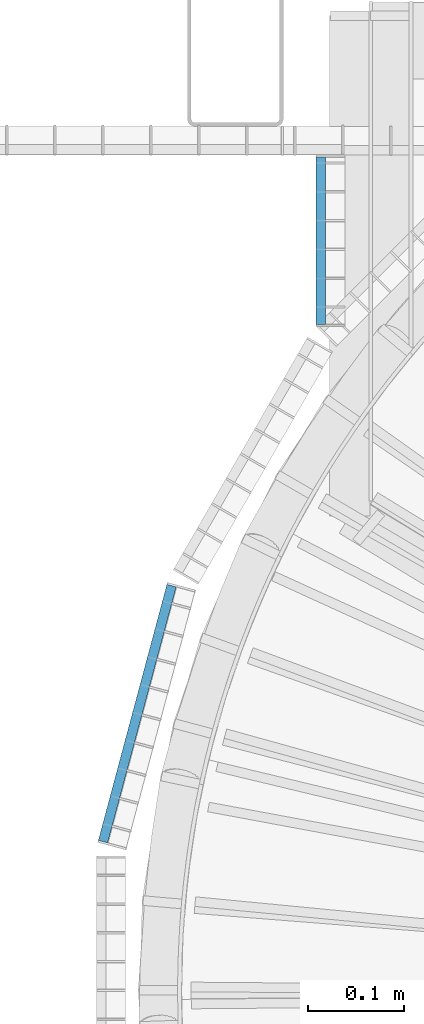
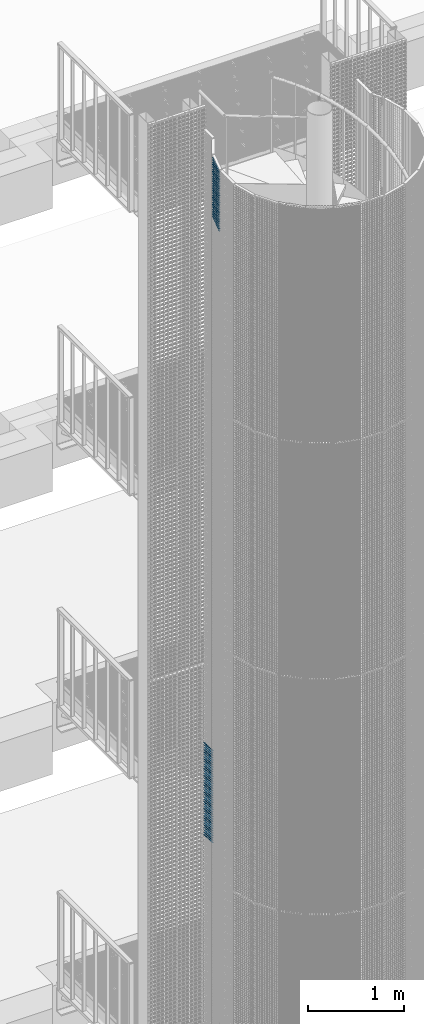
# One storey, part 183 of 1183: 66 beams, 2 elements without a shape of their own.
"""IFC2X3 building model written with IfcOpenShell, lengths in millimetres."""

from ifc_helpers import new_model, si_unit, frame, origin_with_axes, origin_2d_with_axis, place, context, subcontext, project, spatial, rectangle, extrude, material, type_object, element, aggregate, save


model = new_model("IFC2X3")

# Units and contexts
model_context = context("Model", 3, precision=1e-05, world=origin_with_axes())
body_context = subcontext(model_context, "Body", "Model", "MODEL_VIEW")
ifc_project = project(units=[si_unit("LENGTHUNIT", "METRE", prefix="MILLI"), si_unit("AREAUNIT", "SQUARE_METRE"), si_unit("VOLUMEUNIT", "CUBIC_METRE"), si_unit("MASSUNIT", "GRAM", prefix="KILO"), si_unit("TIMEUNIT", "SECOND"), si_unit("PLANEANGLEUNIT", "RADIAN"), si_unit("SOLIDANGLEUNIT", "STERADIAN"), si_unit("THERMODYNAMICTEMPERATUREUNIT", "DEGREE_CELSIUS"), si_unit("LUMINOUSINTENSITYUNIT", "LUMEN")], contexts=[model_context])

# Site, building, storey
site_placement = place(None, origin_with_axes())
site = spatial("IfcSite", under=ifc_project, at=site_placement, Name="Undefined", CompositionType="ELEMENT")
building_placement = place(site_placement, origin_with_axes())
building = spatial("IfcBuilding", under=site, at=building_placement, Name="Undefined", CompositionType="ELEMENT")
storey_placement = place(building_placement, origin_with_axes())
storey = spatial("IfcBuildingStorey", under=building, at=storey_placement, Name="Undefined", CompositionType="ELEMENT", Elevation=0.0)

# Assembly, beams
assembly_1_placement = place(storey_placement, origin_with_axes())
assembly_1 = element("IfcElementAssembly", 1, at=assembly_1_placement, inside=storey, Name="BORDURE", AssemblyPlace="NOTDEFINED", PredefinedType="NOTDEFINED")
ifc_material = material(Name="STEEL/S235JR")
beam_type = type_object("IfcBeamType", Name="PL2*10", PredefinedType="NOTDEFINED")
beam_1_placement = place(assembly_1_placement, frame((-884.882567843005, 867.99701719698, 10200.0), z_axis=(-1.0, 0.0, 0.0), x_axis=(0.0, -1.0, 0.0)))
beam_1 = element("IfcBeam", 2, at=beam_1_placement, type_object=beam_type, material=ifc_material, Name="ENTRETOISE", context=body_context, shape_type="SweptSolid", body=[
    extrude(rectangle(XDim=2.0, YDim=10.0, at=origin_2d_with_axis()), frame((174.109999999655, 0.0, 0.0), z_axis=(-1.0, 0.0, 0.0), x_axis=(0.0, -1.0, 0.0)), (0.0, 0.0, 1.0), 174.11),
])
beam_2_placement = place(assembly_1_placement, frame((-884.882567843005, 867.99701719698, 10170.0), z_axis=(-1.0, 0.0, 0.0), x_axis=(0.0, -1.0, 0.0)))
beam_2 = element("IfcBeam", 3, at=beam_2_placement, type_object=beam_type, material=ifc_material, Name="ENTRETOISE", context=body_context, shape_type="SweptSolid", body=[
    extrude(rectangle(XDim=2.0, YDim=10.0, at=origin_2d_with_axis()), frame((174.109999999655, 0.0, 0.0), z_axis=(-1.0, 0.0, 0.0), x_axis=(0.0, -1.0, 0.0)), (0.0, 0.0, 1.0), 174.11),
])
beam_3_placement = place(assembly_1_placement, frame((-884.882567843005, 867.99701719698, 10140.0), z_axis=(-1.0, 0.0, 0.0), x_axis=(0.0, -1.0, 0.0)))
beam_3 = element("IfcBeam", 4, at=beam_3_placement, type_object=beam_type, material=ifc_material, Name="ENTRETOISE", context=body_context, shape_type="SweptSolid", body=[
    extrude(rectangle(XDim=2.0, YDim=10.0, at=origin_2d_with_axis()), frame((174.109999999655, 0.0, 0.0), z_axis=(-1.0, 0.0, 0.0), x_axis=(0.0, -1.0, 0.0)), (0.0, 0.0, 1.0), 174.11),
])
beam_4_placement = place(assembly_1_placement, frame((-884.882567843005, 867.997017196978, 9720.0), z_axis=(-1.0, 0.0, 0.0), x_axis=(0.0, -1.0, 0.0)))
beam_4 = element("IfcBeam", 5, at=beam_4_placement, type_object=beam_type, material=ifc_material, Name="ENTRETOISE", context=body_context, shape_type="SweptSolid", body=[
    extrude(rectangle(XDim=2.0, YDim=10.0, at=origin_2d_with_axis()), frame((174.109999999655, 0.0, 0.0), z_axis=(-1.0, 0.0, 0.0), x_axis=(0.0, -1.0, 0.0)), (0.0, 0.0, 1.0), 174.11),
])
beam_5_placement = place(assembly_1_placement, frame((-884.882567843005, 867.997017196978, 9690.0), z_axis=(-1.0, 0.0, 0.0), x_axis=(0.0, -1.0, 0.0)))
beam_5 = element("IfcBeam", 6, at=beam_5_placement, type_object=beam_type, material=ifc_material, Name="ENTRETOISE", context=body_context, shape_type="SweptSolid", body=[
    extrude(rectangle(XDim=2.0, YDim=10.0, at=origin_2d_with_axis()), frame((174.109999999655, 0.0, 0.0), z_axis=(-1.0, 0.0, 0.0), x_axis=(0.0, -1.0, 0.0)), (0.0, 0.0, 1.0), 174.11),
])
beam_6_placement = place(assembly_1_placement, frame((-884.882567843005, 867.997017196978, 9750.0), z_axis=(-1.0, 0.0, 0.0), x_axis=(0.0, -1.0, 0.0)))
beam_6 = element("IfcBeam", 7, at=beam_6_placement, type_object=beam_type, material=ifc_material, Name="ENTRETOISE", context=body_context, shape_type="SweptSolid", body=[
    extrude(rectangle(XDim=2.0, YDim=10.0, at=origin_2d_with_axis()), frame((174.109999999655, 0.0, 0.0), z_axis=(-1.0, 0.0, 0.0), x_axis=(0.0, -1.0, 0.0)), (0.0, 0.0, 1.0), 174.11),
])
beam_7_placement = place(assembly_1_placement, frame((-884.882567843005, 867.997017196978, 9660.0), z_axis=(-1.0, 0.0, 0.0), x_axis=(0.0, -1.0, 0.0)))
beam_7 = element("IfcBeam", 8, at=beam_7_placement, type_object=beam_type, material=ifc_material, Name="ENTRETOISE", context=body_context, shape_type="SweptSolid", body=[
    extrude(rectangle(XDim=2.0, YDim=10.0, at=origin_2d_with_axis()), frame((174.109999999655, 0.0, 0.0), z_axis=(-1.0, 0.0, 0.0), x_axis=(0.0, -1.0, 0.0)), (0.0, 0.0, 1.0), 174.11),
])
beam_8_placement = place(assembly_1_placement, frame((-884.882567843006, 867.997017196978, 9630.0), z_axis=(-1.0, 0.0, 0.0), x_axis=(0.0, -1.0, 0.0)))
beam_8 = element("IfcBeam", 9, at=beam_8_placement, type_object=beam_type, material=ifc_material, Name="ENTRETOISE", context=body_context, shape_type="SweptSolid", body=[
    extrude(rectangle(XDim=2.0, YDim=10.0, at=origin_2d_with_axis()), frame((174.109999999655, 0.0, 0.0), z_axis=(-1.0, 0.0, 0.0), x_axis=(0.0, -1.0, 0.0)), (0.0, 0.0, 1.0), 174.11),
])
beam_9_placement = place(assembly_1_placement, frame((-884.882567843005, 867.997017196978, 9780.0), z_axis=(-1.0, 0.0, 0.0), x_axis=(0.0, -1.0, 0.0)))
beam_9 = element("IfcBeam", 10, at=beam_9_placement, type_object=beam_type, material=ifc_material, Name="ENTRETOISE", context=body_context, shape_type="SweptSolid", body=[
    extrude(rectangle(XDim=2.0, YDim=10.0, at=origin_2d_with_axis()), frame((174.109999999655, 0.0, 0.0), z_axis=(-1.0, 0.0, 0.0), x_axis=(0.0, -1.0, 0.0)), (0.0, 0.0, 1.0), 174.11),
])
beam_10_placement = place(assembly_1_placement, frame((-884.882567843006, 867.997017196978, 9600.0), z_axis=(-1.0, 0.0, 0.0), x_axis=(0.0, -1.0, 0.0)))
beam_10 = element("IfcBeam", 11, at=beam_10_placement, type_object=beam_type, material=ifc_material, Name="ENTRETOISE", context=body_context, shape_type="SweptSolid", body=[
    extrude(rectangle(XDim=2.0, YDim=10.0, at=origin_2d_with_axis()), frame((174.109999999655, 0.0, 0.0), z_axis=(-1.0, 0.0, 0.0), x_axis=(0.0, -1.0, 0.0)), (0.0, 0.0, 1.0), 174.11),
])
beam_11_placement = place(assembly_1_placement, frame((-884.882567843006, 867.997017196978, 9810.0), z_axis=(-1.0, 0.0, 0.0), x_axis=(0.0, -1.0, 0.0)))
beam_11 = element("IfcBeam", 12, at=beam_11_placement, type_object=beam_type, material=ifc_material, Name="ENTRETOISE", context=body_context, shape_type="SweptSolid", body=[
    extrude(rectangle(XDim=2.0, YDim=10.0, at=origin_2d_with_axis()), frame((174.109999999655, 0.0, 0.0), z_axis=(-1.0, 0.0, 0.0), x_axis=(0.0, -1.0, 0.0)), (0.0, 0.0, 1.0), 174.11),
])
beam_12_placement = place(assembly_1_placement, frame((-884.882567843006, 867.997017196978, 9570.0), z_axis=(-1.0, 0.0, 0.0), x_axis=(0.0, -1.0, 0.0)))
beam_12 = element("IfcBeam", 13, at=beam_12_placement, type_object=beam_type, material=ifc_material, Name="ENTRETOISE", context=body_context, shape_type="SweptSolid", body=[
    extrude(rectangle(XDim=2.0, YDim=10.0, at=origin_2d_with_axis()), frame((174.109999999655, 0.0, 0.0), z_axis=(-1.0, 0.0, 0.0), x_axis=(0.0, -1.0, 0.0)), (0.0, 0.0, 1.0), 174.11),
])
beam_13_placement = place(assembly_1_placement, frame((-884.882567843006, 867.997017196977, 9540.0), z_axis=(-1.0, 0.0, 0.0), x_axis=(0.0, -1.0, 0.0)))
beam_13 = element("IfcBeam", 14, at=beam_13_placement, type_object=beam_type, material=ifc_material, Name="ENTRETOISE", context=body_context, shape_type="SweptSolid", body=[
    extrude(rectangle(XDim=2.0, YDim=10.0, at=origin_2d_with_axis()), frame((174.109999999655, 0.0, 0.0), z_axis=(-1.0, 0.0, 0.0), x_axis=(0.0, -1.0, 0.0)), (0.0, 0.0, 1.0), 174.11),
])
beam_14_placement = place(assembly_1_placement, frame((-884.882567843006, 867.997017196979, 9840.0), z_axis=(-1.0, 0.0, 0.0), x_axis=(0.0, -1.0, 0.0)))
beam_14 = element("IfcBeam", 15, at=beam_14_placement, type_object=beam_type, material=ifc_material, Name="ENTRETOISE", context=body_context, shape_type="SweptSolid", body=[
    extrude(rectangle(XDim=2.0, YDim=10.0, at=origin_2d_with_axis()), frame((174.109999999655, 0.0, 0.0), z_axis=(-1.0, 0.0, 0.0), x_axis=(0.0, -1.0, 0.0)), (0.0, 0.0, 1.0), 174.11),
])
beam_15_placement = place(assembly_1_placement, frame((-884.882567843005, 867.997017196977, 9510.0), z_axis=(-1.0, 0.0, 0.0), x_axis=(0.0, -1.0, 0.0)))
beam_15 = element("IfcBeam", 16, at=beam_15_placement, type_object=beam_type, material=ifc_material, Name="ENTRETOISE", context=body_context, shape_type="SweptSolid", body=[
    extrude(rectangle(XDim=2.0, YDim=10.0, at=origin_2d_with_axis()), frame((174.109999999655, 0.0, 0.0), z_axis=(-1.0, 0.0, 0.0), x_axis=(0.0, -1.0, 0.0)), (0.0, 0.0, 1.0), 174.11),
])
beam_16_placement = place(assembly_1_placement, frame((-884.882567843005, 867.997017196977, 9480.0), z_axis=(-1.0, 0.0, 0.0), x_axis=(0.0, -1.0, 0.0)))
beam_16 = element("IfcBeam", 17, at=beam_16_placement, type_object=beam_type, material=ifc_material, Name="ENTRETOISE", context=body_context, shape_type="SweptSolid", body=[
    extrude(rectangle(XDim=2.0, YDim=10.0, at=origin_2d_with_axis()), frame((174.109999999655, 0.0, 0.0), z_axis=(-1.0, 0.0, 0.0), x_axis=(0.0, -1.0, 0.0)), (0.0, 0.0, 1.0), 174.11),
])
beam_17_placement = place(assembly_1_placement, frame((-884.882567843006, 867.997017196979, 9870.0), z_axis=(-1.0, 0.0, 0.0), x_axis=(0.0, -1.0, 0.0)))
beam_17 = element("IfcBeam", 18, at=beam_17_placement, type_object=beam_type, material=ifc_material, Name="ENTRETOISE", context=body_context, shape_type="SweptSolid", body=[
    extrude(rectangle(XDim=2.0, YDim=10.0, at=origin_2d_with_axis()), frame((174.109999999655, 0.0, 0.0), z_axis=(-1.0, 0.0, 0.0), x_axis=(0.0, -1.0, 0.0)), (0.0, 0.0, 1.0), 174.11),
])
beam_18_placement = place(assembly_1_placement, frame((-884.882567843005, 867.997017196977, 9450.0), z_axis=(-1.0, 0.0, 0.0), x_axis=(0.0, -1.0, 0.0)))
beam_18 = element("IfcBeam", 19, at=beam_18_placement, type_object=beam_type, material=ifc_material, Name="ENTRETOISE", context=body_context, shape_type="SweptSolid", body=[
    extrude(rectangle(XDim=2.0, YDim=10.0, at=origin_2d_with_axis()), frame((174.109999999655, 0.0, 0.0), z_axis=(-1.0, 0.0, 0.0), x_axis=(0.0, -1.0, 0.0)), (0.0, 0.0, 1.0), 174.11),
])
beam_19_placement = place(assembly_1_placement, frame((-884.882567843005, 867.997017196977, 9420.0), z_axis=(-1.0, 0.0, 0.0), x_axis=(0.0, -1.0, 0.0)))
beam_19 = element("IfcBeam", 20, at=beam_19_placement, type_object=beam_type, material=ifc_material, Name="ENTRETOISE", context=body_context, shape_type="SweptSolid", body=[
    extrude(rectangle(XDim=2.0, YDim=10.0, at=origin_2d_with_axis()), frame((174.109999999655, 0.0, 0.0), z_axis=(-1.0, 0.0, 0.0), x_axis=(0.0, -1.0, 0.0)), (0.0, 0.0, 1.0), 174.11),
])
beam_20_placement = place(assembly_1_placement, frame((-884.882567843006, 867.997017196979, 9900.0), z_axis=(-1.0, 0.0, 0.0), x_axis=(0.0, -1.0, 0.0)))
beam_20 = element("IfcBeam", 21, at=beam_20_placement, type_object=beam_type, material=ifc_material, Name="ENTRETOISE", context=body_context, shape_type="SweptSolid", body=[
    extrude(rectangle(XDim=2.0, YDim=10.0, at=origin_2d_with_axis()), frame((174.109999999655, 0.0, 0.0), z_axis=(-1.0, 0.0, 0.0), x_axis=(0.0, -1.0, 0.0)), (0.0, 0.0, 1.0), 174.11),
])
beam_21_placement = place(assembly_1_placement, frame((-884.882567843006, 867.997017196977, 9390.0), z_axis=(-1.0, 0.0, 0.0), x_axis=(0.0, -1.0, 0.0)))
beam_21 = element("IfcBeam", 22, at=beam_21_placement, type_object=beam_type, material=ifc_material, Name="ENTRETOISE", context=body_context, shape_type="SweptSolid", body=[
    extrude(rectangle(XDim=2.0, YDim=10.0, at=origin_2d_with_axis()), frame((174.109999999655, 0.0, 0.0), z_axis=(-1.0, 0.0, 0.0), x_axis=(0.0, -1.0, 0.0)), (0.0, 0.0, 1.0), 174.11),
])
beam_22_placement = place(assembly_1_placement, frame((-884.882567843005, 867.997017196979, 9930.0), z_axis=(-1.0, 0.0, 0.0), x_axis=(0.0, -1.0, 0.0)))
beam_22 = element("IfcBeam", 23, at=beam_22_placement, type_object=beam_type, material=ifc_material, Name="ENTRETOISE", context=body_context, shape_type="SweptSolid", body=[
    extrude(rectangle(XDim=2.0, YDim=10.0, at=origin_2d_with_axis()), frame((174.109999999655, 0.0, 0.0), z_axis=(-1.0, 0.0, 0.0), x_axis=(0.0, -1.0, 0.0)), (0.0, 0.0, 1.0), 174.11),
])
beam_23_placement = place(assembly_1_placement, frame((-884.882567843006, 867.997017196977, 9360.0), z_axis=(-1.0, 0.0, 0.0), x_axis=(0.0, -1.0, 0.0)))
beam_23 = element("IfcBeam", 24, at=beam_23_placement, type_object=beam_type, material=ifc_material, Name="ENTRETOISE", context=body_context, shape_type="SweptSolid", body=[
    extrude(rectangle(XDim=2.0, YDim=10.0, at=origin_2d_with_axis()), frame((174.109999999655, 0.0, 0.0), z_axis=(-1.0, 0.0, 0.0), x_axis=(0.0, -1.0, 0.0)), (0.0, 0.0, 1.0), 174.11),
])
beam_24_placement = place(assembly_1_placement, frame((-884.882567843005, 867.997017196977, 9330.0), z_axis=(-1.0, 0.0, 0.0), x_axis=(0.0, -1.0, 0.0)))
beam_24 = element("IfcBeam", 25, at=beam_24_placement, type_object=beam_type, material=ifc_material, Name="ENTRETOISE", context=body_context, shape_type="SweptSolid", body=[
    extrude(rectangle(XDim=2.0, YDim=10.0, at=origin_2d_with_axis()), frame((174.109999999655, 0.0, 0.0), z_axis=(-1.0, 0.0, 0.0), x_axis=(0.0, -1.0, 0.0)), (0.0, 0.0, 1.0), 174.11),
])
beam_25_placement = place(assembly_1_placement, frame((-884.882567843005, 867.997017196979, 9960.0), z_axis=(-1.0, 0.0, 0.0), x_axis=(0.0, -1.0, 0.0)))
beam_25 = element("IfcBeam", 26, at=beam_25_placement, type_object=beam_type, material=ifc_material, Name="ENTRETOISE", context=body_context, shape_type="SweptSolid", body=[
    extrude(rectangle(XDim=2.0, YDim=10.0, at=origin_2d_with_axis()), frame((174.109999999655, 0.0, 0.0), z_axis=(-1.0, 0.0, 0.0), x_axis=(0.0, -1.0, 0.0)), (0.0, 0.0, 1.0), 174.11),
])
beam_26_placement = place(assembly_1_placement, frame((-884.882567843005, 867.997017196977, 9300.0), z_axis=(-1.0, 0.0, 0.0), x_axis=(0.0, -1.0, 0.0)))
beam_26 = element("IfcBeam", 27, at=beam_26_placement, type_object=beam_type, material=ifc_material, Name="ENTRETOISE", context=body_context, shape_type="SweptSolid", body=[
    extrude(rectangle(XDim=2.0, YDim=10.0, at=origin_2d_with_axis()), frame((174.109999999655, 0.0, 0.0), z_axis=(-1.0, 0.0, 0.0), x_axis=(0.0, -1.0, 0.0)), (0.0, 0.0, 1.0), 174.11),
])
beam_27_placement = place(assembly_1_placement, frame((-884.882567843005, 867.997017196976, 9270.0), z_axis=(-1.0, 0.0, 0.0), x_axis=(0.0, -1.0, 0.0)))
beam_27 = element("IfcBeam", 28, at=beam_27_placement, type_object=beam_type, material=ifc_material, Name="ENTRETOISE", context=body_context, shape_type="SweptSolid", body=[
    extrude(rectangle(XDim=2.0, YDim=10.0, at=origin_2d_with_axis()), frame((174.109999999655, 0.0, 0.0), z_axis=(-1.0, 0.0, 0.0), x_axis=(0.0, -1.0, 0.0)), (0.0, 0.0, 1.0), 174.11),
])
beam_28_placement = place(assembly_1_placement, frame((-884.882567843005, 867.997017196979, 9990.0), z_axis=(-1.0, 0.0, 0.0), x_axis=(0.0, -1.0, 0.0)))
beam_28 = element("IfcBeam", 29, at=beam_28_placement, type_object=beam_type, material=ifc_material, Name="ENTRETOISE", context=body_context, shape_type="SweptSolid", body=[
    extrude(rectangle(XDim=2.0, YDim=10.0, at=origin_2d_with_axis()), frame((174.109999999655, 0.0, 0.0), z_axis=(-1.0, 0.0, 0.0), x_axis=(0.0, -1.0, 0.0)), (0.0, 0.0, 1.0), 174.11),
])
beam_29_placement = place(assembly_1_placement, frame((-884.882567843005, 867.997017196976, 9240.0), z_axis=(-1.0, 0.0, 0.0), x_axis=(0.0, -1.0, 0.0)))
beam_29 = element("IfcBeam", 30, at=beam_29_placement, type_object=beam_type, material=ifc_material, Name="ENTRETOISE", context=body_context, shape_type="SweptSolid", body=[
    extrude(rectangle(XDim=2.0, YDim=10.0, at=origin_2d_with_axis()), frame((174.109999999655, 0.0, 0.0), z_axis=(-1.0, 0.0, 0.0), x_axis=(0.0, -1.0, 0.0)), (0.0, 0.0, 1.0), 174.11),
])
beam_30_placement = place(assembly_1_placement, frame((-884.882567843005, 867.997017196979, 10020.0), z_axis=(-1.0, 0.0, 0.0), x_axis=(0.0, -1.0, 0.0)))
beam_30 = element("IfcBeam", 31, at=beam_30_placement, type_object=beam_type, material=ifc_material, Name="ENTRETOISE", context=body_context, shape_type="SweptSolid", body=[
    extrude(rectangle(XDim=2.0, YDim=10.0, at=origin_2d_with_axis()), frame((174.109999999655, 0.0, 0.0), z_axis=(-1.0, 0.0, 0.0), x_axis=(0.0, -1.0, 0.0)), (0.0, 0.0, 1.0), 174.11),
])
beam_31_placement = place(assembly_1_placement, frame((-884.882567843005, 867.997017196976, 9210.0), z_axis=(-1.0, 0.0, 0.0), x_axis=(0.0, -1.0, 0.0)))
beam_31 = element("IfcBeam", 32, at=beam_31_placement, type_object=beam_type, material=ifc_material, Name="ENTRETOISE", context=body_context, shape_type="SweptSolid", body=[
    extrude(rectangle(XDim=2.0, YDim=10.0, at=origin_2d_with_axis()), frame((174.109999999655, 0.0, 0.0), z_axis=(-1.0, 0.0, 0.0), x_axis=(0.0, -1.0, 0.0)), (0.0, 0.0, 1.0), 174.11),
])
beam_32_placement = place(assembly_1_placement, frame((-884.882567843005, 867.997017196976, 9180.0), z_axis=(-1.0, 0.0, 0.0), x_axis=(0.0, -1.0, 0.0)))
beam_32 = element("IfcBeam", 33, at=beam_32_placement, type_object=beam_type, material=ifc_material, Name="ENTRETOISE", context=body_context, shape_type="SweptSolid", body=[
    extrude(rectangle(XDim=2.0, YDim=10.0, at=origin_2d_with_axis()), frame((174.109999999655, 0.0, 0.0), z_axis=(-1.0, 0.0, 0.0), x_axis=(0.0, -1.0, 0.0)), (0.0, 0.0, 1.0), 174.11),
])
beam_33_placement = place(assembly_1_placement, frame((-884.882567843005, 867.997017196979, 10050.0), z_axis=(-1.0, 0.0, 0.0), x_axis=(0.0, -1.0, 0.0)))
beam_33 = element("IfcBeam", 34, at=beam_33_placement, type_object=beam_type, material=ifc_material, Name="ENTRETOISE", context=body_context, shape_type="SweptSolid", body=[
    extrude(rectangle(XDim=2.0, YDim=10.0, at=origin_2d_with_axis()), frame((174.109999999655, 0.0, 0.0), z_axis=(-1.0, 0.0, 0.0), x_axis=(0.0, -1.0, 0.0)), (0.0, 0.0, 1.0), 174.11),
])
beam_34_placement = place(assembly_1_placement, frame((-884.882567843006, 867.997017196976, 9150.0), z_axis=(-1.0, 0.0, 0.0), x_axis=(0.0, -1.0, 0.0)))
beam_34 = element("IfcBeam", 35, at=beam_34_placement, type_object=beam_type, material=ifc_material, Name="ENTRETOISE", context=body_context, shape_type="SweptSolid", body=[
    extrude(rectangle(XDim=2.0, YDim=10.0, at=origin_2d_with_axis()), frame((174.109999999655, 0.0, 0.0), z_axis=(-1.0, 0.0, 0.0), x_axis=(0.0, -1.0, 0.0)), (0.0, 0.0, 1.0), 174.11),
])
beam_35_placement = place(assembly_1_placement, frame((-884.882567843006, 867.997017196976, 9120.0), z_axis=(-1.0, 0.0, 0.0), x_axis=(0.0, -1.0, 0.0)))
beam_35 = element("IfcBeam", 36, at=beam_35_placement, type_object=beam_type, material=ifc_material, Name="ENTRETOISE", context=body_context, shape_type="SweptSolid", body=[
    extrude(rectangle(XDim=2.0, YDim=10.0, at=origin_2d_with_axis()), frame((174.109999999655, 0.0, 0.0), z_axis=(-1.0, 0.0, 0.0), x_axis=(0.0, -1.0, 0.0)), (0.0, 0.0, 1.0), 174.11),
])
beam_36_placement = place(assembly_1_placement, frame((-884.882567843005, 867.997017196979, 10080.0), z_axis=(-1.0, 0.0, 0.0), x_axis=(0.0, -1.0, 0.0)))
beam_36 = element("IfcBeam", 37, at=beam_36_placement, type_object=beam_type, material=ifc_material, Name="ENTRETOISE", context=body_context, shape_type="SweptSolid", body=[
    extrude(rectangle(XDim=2.0, YDim=10.0, at=origin_2d_with_axis()), frame((174.109999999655, 0.0, 0.0), z_axis=(-1.0, 0.0, 0.0), x_axis=(0.0, -1.0, 0.0)), (0.0, 0.0, 1.0), 174.11),
])
beam_37_placement = place(assembly_1_placement, frame((-884.882567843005, 867.997017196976, 9090.0), z_axis=(-1.0, 0.0, 0.0), x_axis=(0.0, -1.0, 0.0)))
beam_37 = element("IfcBeam", 38, at=beam_37_placement, type_object=beam_type, material=ifc_material, Name="ENTRETOISE", context=body_context, shape_type="SweptSolid", body=[
    extrude(rectangle(XDim=2.0, YDim=10.0, at=origin_2d_with_axis()), frame((174.109999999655, 0.0, 0.0), z_axis=(-1.0, 0.0, 0.0), x_axis=(0.0, -1.0, 0.0)), (0.0, 0.0, 1.0), 174.11),
])
beam_38_placement = place(assembly_1_placement, frame((-884.882567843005, 867.997017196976, 9060.0), z_axis=(-1.0, 0.0, 0.0), x_axis=(0.0, -1.0, 0.0)))
beam_38 = element("IfcBeam", 39, at=beam_38_placement, type_object=beam_type, material=ifc_material, Name="ENTRETOISE", context=body_context, shape_type="SweptSolid", body=[
    extrude(rectangle(XDim=2.0, YDim=10.0, at=origin_2d_with_axis()), frame((174.109999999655, 0.0, 0.0), z_axis=(-1.0, 0.0, 0.0), x_axis=(0.0, -1.0, 0.0)), (0.0, 0.0, 1.0), 174.11),
])
beam_39_placement = place(assembly_1_placement, frame((-884.882567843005, 867.99701719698, 10110.0), z_axis=(-1.0, 0.0, 0.0), x_axis=(0.0, -1.0, 0.0)))
beam_39 = element("IfcBeam", 40, at=beam_39_placement, type_object=beam_type, material=ifc_material, Name="ENTRETOISE", context=body_context, shape_type="SweptSolid", body=[
    extrude(rectangle(XDim=2.0, YDim=10.0, at=origin_2d_with_axis()), frame((174.109999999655, 0.0, 0.0), z_axis=(-1.0, 0.0, 0.0), x_axis=(0.0, -1.0, 0.0)), (0.0, 0.0, 1.0), 174.11),
])
beam_40_placement = place(assembly_1_placement, frame((-884.882567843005, 867.997017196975, 9030.0), z_axis=(-1.0, 0.0, 0.0), x_axis=(0.0, -1.0, 0.0)))
beam_40 = element("IfcBeam", 41, at=beam_40_placement, type_object=beam_type, material=ifc_material, Name="ENTRETOISE", context=body_context, shape_type="SweptSolid", body=[
    extrude(rectangle(XDim=2.0, YDim=10.0, at=origin_2d_with_axis()), frame((174.109999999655, 0.0, 0.0), z_axis=(-1.0, 0.0, 0.0), x_axis=(0.0, -1.0, 0.0)), (0.0, 0.0, 1.0), 174.11),
])
aggregate(assembly_1, [beam_1, beam_2, beam_3, beam_4, beam_5, beam_6, beam_7, beam_8, beam_9, beam_10, beam_11, beam_12, beam_13, beam_14, beam_15, beam_16, beam_17, beam_18, beam_19, beam_20, beam_21, beam_22, beam_23, beam_24, beam_25, beam_26, beam_27, beam_28, beam_29, beam_30, beam_31, beam_32, beam_33, beam_34, beam_35, beam_36, beam_37, beam_38, beam_39, beam_40])

assembly_2_placement = place(storey_placement, origin_with_axes())
assembly_2 = element("IfcElementAssembly", 42, at=assembly_2_placement, inside=storey, Name="BORDURE", AssemblyPlace="NOTDEFINED", PredefinedType="NOTDEFINED")
beam_41_placement = place(assembly_2_placement, frame((-1040.30888419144, 421.61803829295, 17970.0), z_axis=(-0.965925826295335, 0.258819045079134, 0.0), x_axis=(-0.258819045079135, -0.965925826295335, 0.0)))
beam_41 = element("IfcBeam", 43, at=beam_41_placement, type_object=beam_type, material=ifc_material, Name="ENTRETOISE", context=body_context, shape_type="SweptSolid", body=[
    extrude(rectangle(XDim=2.0, YDim=10.0, at=origin_2d_with_axis()), frame((275.999999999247, 9.09494701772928e-13, 1.53210777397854e-14), z_axis=(-1.0, 0.0, 0.0), x_axis=(0.0, -1.0, 0.0)), (0.0, 0.0, 1.0), 276.0),
])
beam_42_placement = place(assembly_2_placement, frame((-1040.30888419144, 421.61803829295, 17940.0), z_axis=(-0.965925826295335, 0.258819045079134, 0.0), x_axis=(-0.258819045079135, -0.965925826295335, 0.0)))
beam_42 = element("IfcBeam", 44, at=beam_42_placement, type_object=beam_type, material=ifc_material, Name="ENTRETOISE", context=body_context, shape_type="SweptSolid", body=[
    extrude(rectangle(XDim=2.0, YDim=10.0, at=origin_2d_with_axis()), frame((275.999999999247, 9.09494701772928e-13, 1.53210777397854e-14), z_axis=(-1.0, 0.0, 0.0), x_axis=(0.0, -1.0, 0.0)), (0.0, 0.0, 1.0), 276.0),
])
beam_43_placement = place(assembly_2_placement, frame((-1040.30888419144, 421.61803829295, 17910.0), z_axis=(-0.965925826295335, 0.258819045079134, 0.0), x_axis=(-0.258819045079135, -0.965925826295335, 0.0)))
beam_43 = element("IfcBeam", 45, at=beam_43_placement, type_object=beam_type, material=ifc_material, Name="ENTRETOISE", context=body_context, shape_type="SweptSolid", body=[
    extrude(rectangle(XDim=2.0, YDim=10.0, at=origin_2d_with_axis()), frame((275.999999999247, 9.09494701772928e-13, 1.53210777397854e-14), z_axis=(-1.0, 0.0, 0.0), x_axis=(0.0, -1.0, 0.0)), (0.0, 0.0, 1.0), 276.0),
])
beam_44_placement = place(assembly_2_placement, frame((-1040.30888419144, 421.61803829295, 17880.0), z_axis=(-0.965925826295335, 0.258819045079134, 0.0), x_axis=(-0.258819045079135, -0.965925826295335, 0.0)))
beam_44 = element("IfcBeam", 46, at=beam_44_placement, type_object=beam_type, material=ifc_material, Name="ENTRETOISE", context=body_context, shape_type="SweptSolid", body=[
    extrude(rectangle(XDim=2.0, YDim=10.0, at=origin_2d_with_axis()), frame((275.999999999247, 9.09494701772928e-13, 1.53210777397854e-14), z_axis=(-1.0, 0.0, 0.0), x_axis=(0.0, -1.0, 0.0)), (0.0, 0.0, 1.0), 276.0),
])
beam_45_placement = place(assembly_2_placement, frame((-1040.30888419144, 421.61803829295, 17850.0), z_axis=(-0.965925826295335, 0.258819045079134, 0.0), x_axis=(-0.258819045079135, -0.965925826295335, 0.0)))
beam_45 = element("IfcBeam", 47, at=beam_45_placement, type_object=beam_type, material=ifc_material, Name="ENTRETOISE", context=body_context, shape_type="SweptSolid", body=[
    extrude(rectangle(XDim=2.0, YDim=10.0, at=origin_2d_with_axis()), frame((275.999999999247, 9.09494701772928e-13, 1.53210777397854e-14), z_axis=(-1.0, 0.0, 0.0), x_axis=(0.0, -1.0, 0.0)), (0.0, 0.0, 1.0), 276.0),
])
beam_46_placement = place(assembly_2_placement, frame((-1040.30888419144, 421.61803829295, 17820.0), z_axis=(-0.965925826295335, 0.258819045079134, 0.0), x_axis=(-0.258819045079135, -0.965925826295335, 0.0)))
beam_46 = element("IfcBeam", 48, at=beam_46_placement, type_object=beam_type, material=ifc_material, Name="ENTRETOISE", context=body_context, shape_type="SweptSolid", body=[
    extrude(rectangle(XDim=2.0, YDim=10.0, at=origin_2d_with_axis()), frame((275.999999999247, 9.09494701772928e-13, 1.53210777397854e-14), z_axis=(-1.0, 0.0, 0.0), x_axis=(0.0, -1.0, 0.0)), (0.0, 0.0, 1.0), 276.0),
])
beam_47_placement = place(assembly_2_placement, frame((-1040.30888419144, 421.61803829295, 17790.0), z_axis=(-0.965925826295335, 0.258819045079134, 0.0), x_axis=(-0.258819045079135, -0.965925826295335, 0.0)))
beam_47 = element("IfcBeam", 49, at=beam_47_placement, type_object=beam_type, material=ifc_material, Name="ENTRETOISE", context=body_context, shape_type="SweptSolid", body=[
    extrude(rectangle(XDim=2.0, YDim=10.0, at=origin_2d_with_axis()), frame((275.999999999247, 9.09494701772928e-13, 1.53210777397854e-14), z_axis=(-1.0, 0.0, 0.0), x_axis=(0.0, -1.0, 0.0)), (0.0, 0.0, 1.0), 276.0),
])
beam_48_placement = place(assembly_2_placement, frame((-1040.30888419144, 421.61803829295, 17760.0), z_axis=(-0.965925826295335, 0.258819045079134, 0.0), x_axis=(-0.258819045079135, -0.965925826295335, 0.0)))
beam_48 = element("IfcBeam", 50, at=beam_48_placement, type_object=beam_type, material=ifc_material, Name="ENTRETOISE", context=body_context, shape_type="SweptSolid", body=[
    extrude(rectangle(XDim=2.0, YDim=10.0, at=origin_2d_with_axis()), frame((275.999999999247, 9.09494701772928e-13, 1.53210777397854e-14), z_axis=(-1.0, 0.0, 0.0), x_axis=(0.0, -1.0, 0.0)), (0.0, 0.0, 1.0), 276.0),
])
beam_49_placement = place(assembly_2_placement, frame((-1040.30888419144, 421.61803829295, 17730.0), z_axis=(-0.965925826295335, 0.258819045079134, 0.0), x_axis=(-0.258819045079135, -0.965925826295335, 0.0)))
beam_49 = element("IfcBeam", 51, at=beam_49_placement, type_object=beam_type, material=ifc_material, Name="ENTRETOISE", context=body_context, shape_type="SweptSolid", body=[
    extrude(rectangle(XDim=2.0, YDim=10.0, at=origin_2d_with_axis()), frame((275.999999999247, 9.09494701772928e-13, 1.53210777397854e-14), z_axis=(-1.0, 0.0, 0.0), x_axis=(0.0, -1.0, 0.0)), (0.0, 0.0, 1.0), 276.0),
])
beam_50_placement = place(assembly_2_placement, frame((-1040.30888419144, 421.618038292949, 17700.0), z_axis=(-0.965925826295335, 0.258819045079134, 0.0), x_axis=(-0.258819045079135, -0.965925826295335, 0.0)))
beam_50 = element("IfcBeam", 52, at=beam_50_placement, type_object=beam_type, material=ifc_material, Name="ENTRETOISE", context=body_context, shape_type="SweptSolid", body=[
    extrude(rectangle(XDim=2.0, YDim=10.0, at=origin_2d_with_axis()), frame((275.999999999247, 9.09494701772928e-13, 1.53210777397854e-14), z_axis=(-1.0, 0.0, 0.0), x_axis=(0.0, -1.0, 0.0)), (0.0, 0.0, 1.0), 276.0),
])
beam_51_placement = place(assembly_2_placement, frame((-1040.30888419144, 421.618038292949, 17670.0), z_axis=(-0.965925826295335, 0.258819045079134, 0.0), x_axis=(-0.258819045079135, -0.965925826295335, 0.0)))
beam_51 = element("IfcBeam", 53, at=beam_51_placement, type_object=beam_type, material=ifc_material, Name="ENTRETOISE", context=body_context, shape_type="SweptSolid", body=[
    extrude(rectangle(XDim=2.0, YDim=10.0, at=origin_2d_with_axis()), frame((275.999999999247, 9.09494701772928e-13, 1.53210777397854e-14), z_axis=(-1.0, 0.0, 0.0), x_axis=(0.0, -1.0, 0.0)), (0.0, 0.0, 1.0), 276.0),
])
beam_52_placement = place(assembly_2_placement, frame((-1040.30888419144, 421.618038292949, 17640.0), z_axis=(-0.965925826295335, 0.258819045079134, 0.0), x_axis=(-0.258819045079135, -0.965925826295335, 0.0)))
beam_52 = element("IfcBeam", 54, at=beam_52_placement, type_object=beam_type, material=ifc_material, Name="ENTRETOISE", context=body_context, shape_type="SweptSolid", body=[
    extrude(rectangle(XDim=2.0, YDim=10.0, at=origin_2d_with_axis()), frame((275.999999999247, 9.09494701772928e-13, 1.53210777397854e-14), z_axis=(-1.0, 0.0, 0.0), x_axis=(0.0, -1.0, 0.0)), (0.0, 0.0, 1.0), 276.0),
])
beam_53_placement = place(assembly_2_placement, frame((-1040.30888419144, 421.618038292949, 17610.0), z_axis=(-0.965925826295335, 0.258819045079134, 0.0), x_axis=(-0.258819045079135, -0.965925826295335, 0.0)))
beam_53 = element("IfcBeam", 55, at=beam_53_placement, type_object=beam_type, material=ifc_material, Name="ENTRETOISE", context=body_context, shape_type="SweptSolid", body=[
    extrude(rectangle(XDim=2.0, YDim=10.0, at=origin_2d_with_axis()), frame((275.999999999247, 9.09494701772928e-13, 1.53210777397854e-14), z_axis=(-1.0, 0.0, 0.0), x_axis=(0.0, -1.0, 0.0)), (0.0, 0.0, 1.0), 276.0),
])
beam_54_placement = place(assembly_2_placement, frame((-1040.30888419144, 421.618038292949, 17580.0), z_axis=(-0.965925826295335, 0.258819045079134, 0.0), x_axis=(-0.258819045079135, -0.965925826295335, 0.0)))
beam_54 = element("IfcBeam", 56, at=beam_54_placement, type_object=beam_type, material=ifc_material, Name="ENTRETOISE", context=body_context, shape_type="SweptSolid", body=[
    extrude(rectangle(XDim=2.0, YDim=10.0, at=origin_2d_with_axis()), frame((275.999999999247, 9.09494701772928e-13, 1.53210777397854e-14), z_axis=(-1.0, 0.0, 0.0), x_axis=(0.0, -1.0, 0.0)), (0.0, 0.0, 1.0), 276.0),
])
beam_55_placement = place(assembly_2_placement, frame((-1040.30888419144, 421.618038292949, 17550.0), z_axis=(-0.965925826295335, 0.258819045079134, 0.0), x_axis=(-0.258819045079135, -0.965925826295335, 0.0)))
beam_55 = element("IfcBeam", 57, at=beam_55_placement, type_object=beam_type, material=ifc_material, Name="ENTRETOISE", context=body_context, shape_type="SweptSolid", body=[
    extrude(rectangle(XDim=2.0, YDim=10.0, at=origin_2d_with_axis()), frame((275.999999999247, 9.09494701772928e-13, 1.53210777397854e-14), z_axis=(-1.0, 0.0, 0.0), x_axis=(0.0, -1.0, 0.0)), (0.0, 0.0, 1.0), 276.0),
])
beam_56_placement = place(assembly_2_placement, frame((-1040.30888419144, 421.618038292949, 17520.0), z_axis=(-0.965925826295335, 0.258819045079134, 0.0), x_axis=(-0.258819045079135, -0.965925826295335, 0.0)))
beam_56 = element("IfcBeam", 58, at=beam_56_placement, type_object=beam_type, material=ifc_material, Name="ENTRETOISE", context=body_context, shape_type="SweptSolid", body=[
    extrude(rectangle(XDim=2.0, YDim=10.0, at=origin_2d_with_axis()), frame((275.999999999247, 9.09494701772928e-13, 1.53210777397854e-14), z_axis=(-1.0, 0.0, 0.0), x_axis=(0.0, -1.0, 0.0)), (0.0, 0.0, 1.0), 276.0),
])
beam_57_placement = place(assembly_2_placement, frame((-1040.30888419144, 421.618038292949, 17490.0), z_axis=(-0.965925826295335, 0.258819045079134, 0.0), x_axis=(-0.258819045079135, -0.965925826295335, 0.0)))
beam_57 = element("IfcBeam", 59, at=beam_57_placement, type_object=beam_type, material=ifc_material, Name="ENTRETOISE", context=body_context, shape_type="SweptSolid", body=[
    extrude(rectangle(XDim=2.0, YDim=10.0, at=origin_2d_with_axis()), frame((275.999999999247, 9.09494701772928e-13, 1.53210777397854e-14), z_axis=(-1.0, 0.0, 0.0), x_axis=(0.0, -1.0, 0.0)), (0.0, 0.0, 1.0), 276.0),
])
beam_58_placement = place(assembly_2_placement, frame((-1040.30888419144, 421.618038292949, 17460.0), z_axis=(-0.965925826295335, 0.258819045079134, 0.0), x_axis=(-0.258819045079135, -0.965925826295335, 0.0)))
beam_58 = element("IfcBeam", 60, at=beam_58_placement, type_object=beam_type, material=ifc_material, Name="ENTRETOISE", context=body_context, shape_type="SweptSolid", body=[
    extrude(rectangle(XDim=2.0, YDim=10.0, at=origin_2d_with_axis()), frame((275.999999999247, 9.09494701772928e-13, 1.53210777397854e-14), z_axis=(-1.0, 0.0, 0.0), x_axis=(0.0, -1.0, 0.0)), (0.0, 0.0, 1.0), 276.0),
])
beam_59_placement = place(assembly_2_placement, frame((-1040.30888419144, 421.618038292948, 17430.0), z_axis=(-0.965925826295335, 0.258819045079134, 0.0), x_axis=(-0.258819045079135, -0.965925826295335, 0.0)))
beam_59 = element("IfcBeam", 61, at=beam_59_placement, type_object=beam_type, material=ifc_material, Name="ENTRETOISE", context=body_context, shape_type="SweptSolid", body=[
    extrude(rectangle(XDim=2.0, YDim=10.0, at=origin_2d_with_axis()), frame((275.999999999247, 9.09494701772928e-13, 1.53210777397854e-14), z_axis=(-1.0, 0.0, 0.0), x_axis=(0.0, -1.0, 0.0)), (0.0, 0.0, 1.0), 276.0),
])
beam_60_placement = place(assembly_2_placement, frame((-1040.30888419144, 421.618038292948, 17400.0), z_axis=(-0.965925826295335, 0.258819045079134, 0.0), x_axis=(-0.258819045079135, -0.965925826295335, 0.0)))
beam_60 = element("IfcBeam", 62, at=beam_60_placement, type_object=beam_type, material=ifc_material, Name="ENTRETOISE", context=body_context, shape_type="SweptSolid", body=[
    extrude(rectangle(XDim=2.0, YDim=10.0, at=origin_2d_with_axis()), frame((275.999999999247, 9.09494701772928e-13, 1.53210777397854e-14), z_axis=(-1.0, 0.0, 0.0), x_axis=(0.0, -1.0, 0.0)), (0.0, 0.0, 1.0), 276.0),
])
beam_61_placement = place(assembly_2_placement, frame((-1040.30888419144, 421.618038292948, 17370.0), z_axis=(-0.965925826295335, 0.258819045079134, 0.0), x_axis=(-0.258819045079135, -0.965925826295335, 0.0)))
beam_61 = element("IfcBeam", 63, at=beam_61_placement, type_object=beam_type, material=ifc_material, Name="ENTRETOISE", context=body_context, shape_type="SweptSolid", body=[
    extrude(rectangle(XDim=2.0, YDim=10.0, at=origin_2d_with_axis()), frame((275.999999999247, 9.09494701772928e-13, 1.53210777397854e-14), z_axis=(-1.0, 0.0, 0.0), x_axis=(0.0, -1.0, 0.0)), (0.0, 0.0, 1.0), 276.0),
])
beam_62_placement = place(assembly_2_placement, frame((-1040.30888419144, 421.618038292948, 17340.0), z_axis=(-0.965925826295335, 0.258819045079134, 0.0), x_axis=(-0.258819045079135, -0.965925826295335, 0.0)))
beam_62 = element("IfcBeam", 64, at=beam_62_placement, type_object=beam_type, material=ifc_material, Name="ENTRETOISE", context=body_context, shape_type="SweptSolid", body=[
    extrude(rectangle(XDim=2.0, YDim=10.0, at=origin_2d_with_axis()), frame((275.999999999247, 9.09494701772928e-13, 1.53210777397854e-14), z_axis=(-1.0, 0.0, 0.0), x_axis=(0.0, -1.0, 0.0)), (0.0, 0.0, 1.0), 276.0),
])
beam_63_placement = place(assembly_2_placement, frame((-1040.30888419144, 421.618038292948, 17310.0), z_axis=(-0.965925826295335, 0.258819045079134, 0.0), x_axis=(-0.258819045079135, -0.965925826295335, 0.0)))
beam_63 = element("IfcBeam", 65, at=beam_63_placement, type_object=beam_type, material=ifc_material, Name="ENTRETOISE", context=body_context, shape_type="SweptSolid", body=[
    extrude(rectangle(XDim=2.0, YDim=10.0, at=origin_2d_with_axis()), frame((275.999999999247, 9.09494701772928e-13, 1.53210777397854e-14), z_axis=(-1.0, 0.0, 0.0), x_axis=(0.0, -1.0, 0.0)), (0.0, 0.0, 1.0), 276.0),
])
beam_64_placement = place(assembly_2_placement, frame((-1040.30888419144, 421.618038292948, 17280.0), z_axis=(-0.965925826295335, 0.258819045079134, 0.0), x_axis=(-0.258819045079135, -0.965925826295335, 0.0)))
beam_64 = element("IfcBeam", 66, at=beam_64_placement, type_object=beam_type, material=ifc_material, Name="ENTRETOISE", context=body_context, shape_type="SweptSolid", body=[
    extrude(rectangle(XDim=2.0, YDim=10.0, at=origin_2d_with_axis()), frame((275.999999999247, 9.09494701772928e-13, 1.53210777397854e-14), z_axis=(-1.0, 0.0, 0.0), x_axis=(0.0, -1.0, 0.0)), (0.0, 0.0, 1.0), 276.0),
])
beam_65_placement = place(assembly_2_placement, frame((-1040.30888419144, 421.618038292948, 17250.0), z_axis=(-0.965925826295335, 0.258819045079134, 0.0), x_axis=(-0.258819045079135, -0.965925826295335, 0.0)))
beam_65 = element("IfcBeam", 67, at=beam_65_placement, type_object=beam_type, material=ifc_material, Name="ENTRETOISE", context=body_context, shape_type="SweptSolid", body=[
    extrude(rectangle(XDim=2.0, YDim=10.0, at=origin_2d_with_axis()), frame((275.999999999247, 9.09494701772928e-13, 1.53210777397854e-14), z_axis=(-1.0, 0.0, 0.0), x_axis=(0.0, -1.0, 0.0)), (0.0, 0.0, 1.0), 276.0),
])
beam_66_placement = place(assembly_2_placement, frame((-1040.30888419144, 421.618038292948, 17220.0), z_axis=(-0.965925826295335, 0.258819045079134, 0.0), x_axis=(-0.258819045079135, -0.965925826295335, 0.0)))
beam_66 = element("IfcBeam", 68, at=beam_66_placement, type_object=beam_type, material=ifc_material, Name="ENTRETOISE", context=body_context, shape_type="SweptSolid", body=[
    extrude(rectangle(XDim=2.0, YDim=10.0, at=origin_2d_with_axis()), frame((275.999999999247, 9.09494701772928e-13, 1.53210777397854e-14), z_axis=(-1.0, 0.0, 0.0), x_axis=(0.0, -1.0, 0.0)), (0.0, 0.0, 1.0), 276.0),
])
aggregate(assembly_2, [beam_41, beam_42, beam_43, beam_44, beam_45, beam_46, beam_47, beam_48, beam_49, beam_50, beam_51, beam_52, beam_53, beam_54, beam_55, beam_56, beam_57, beam_58, beam_59, beam_60, beam_61, beam_62, beam_63, beam_64, beam_65, beam_66])

save(model, "model.ifc")
